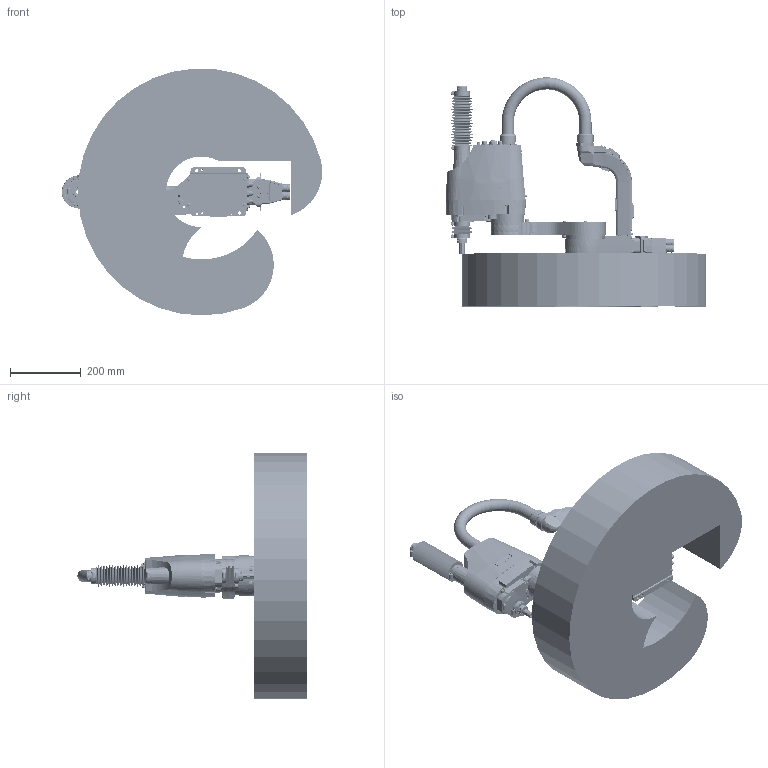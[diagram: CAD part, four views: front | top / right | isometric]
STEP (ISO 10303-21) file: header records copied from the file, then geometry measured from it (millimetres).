
FILE_DESCRIPTION( ( 'STEP AP214' ), '1' );
FILE_NAME( 'C:/Users/9607552/Desktop/GX4-A/GX4-A351C-RS-W.stp', '2023-04-07T04:58:46', ( '' ), ( '' ), ' ', 'PARTsolutions', ' ' );
FILE_SCHEMA( ( 'AUTOMOTIVE_DESIGN { 1 0 10303 214 1 1 1 1 }' ) );
Length unit declared in the file: millimetre
Products named in the file (10): GX4-A351C-RS-W; _A251C-b; _A351S-R_J1_ARM; _A251S-a; _A351S_CONDUIT; _A251C; _A251C-long; _A251C-short; _Straight; _GX4-34_WS
Assembly tree (9 placements, depth 2):
  GX4-A351C-RS-W
    _A251C-b
    _A351S-R_J1_ARM
    _A251S-a
    _A351S_CONDUIT
    _A251C
    _A251C-long
    _A251C-short
    _Straight
    _GX4-34_WS
Bounding box: 737.83 x 649.65 x 699.31 mm (x, y, z)
Volume: 51465223.9 mm3; surface area: 1977972.9 mm2
Topology: 9 solids, 9 shells, 4207 faces, 10239 edges, 6632 vertices
Faces by surface type: plane 2425, cylinder 1149, cone 432, torus 108, bspline 90, sphere 3
Full cylindrical faces by diameter (mm): 1 x30, 1.13 x55, 1.18 x55, 2.459 x4, 2.5 x19, 2.99 x1, 3 x35, 3.2 x3, 3.242 x1, 3.3 x46, 3.4 x32, 3.5 x12, 4 x4, 4.5 x24, 4.8 x8, 4.917 x2, 5 x1, 5.34 x8, 5.4 x14, 5.5 x26, 5.6 x4, 5.68 x4, 5.9 x4, 5.999 x8, 6 x9, 6.7 x4, 6.8 x7, 7 x44, 7.1 x4, 7.8 x4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
Entity records: 157194 total; most frequent: CARTESIAN_POINT 30114, DIRECTION 18577, ORIENTED_EDGE 18320, EDGE_CURVE 9160, AXIS2_PLACEMENT_3D 7086, VERTEX_POINT 6515, EDGE_LOOP 5791, FACE_OUTER_BOUND 4889
